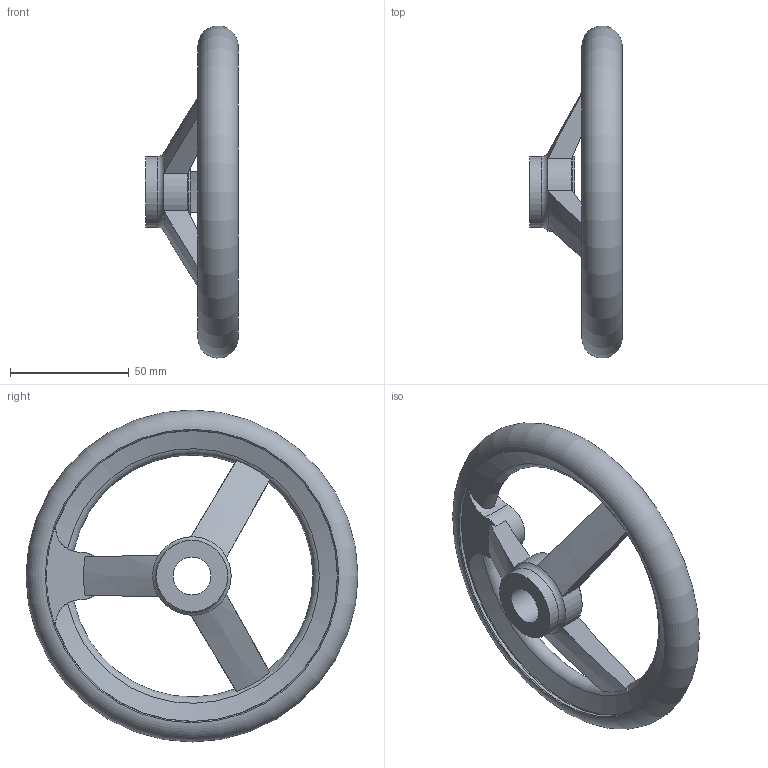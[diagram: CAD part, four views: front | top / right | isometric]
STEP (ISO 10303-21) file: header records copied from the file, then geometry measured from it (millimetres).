
FILE_DESCRIPTION( ( 'STEP AP203' ), '1' );
FILE_NAME( 'C:/Temp/Ganter_Step_05_03_2020/data/1_3/din_950/din_950_b/din_950_b_a/Handwheel DIN 950-AL-140-B16-A.stp', '2020-03-05T10:29:17', ( 'License CC BY-ND 4.0' ), ( 'CADENAS' ), ' ', 'PARTsolutions', ' ' );
FILE_SCHEMA( ( 'CONFIG_CONTROL_DESIGN' ) );
Length unit declared in the file: millimetre
Products named in the file (1): _Handwheel DIN 950-AL-140-B16-A
Bounding box: 39 x 139.96 x 139.96 mm (x, y, z)
Volume: 109807.2 mm3; surface area: 31364 mm2
Topology: 1 solids, 1 shells, 37 faces, 108 edges, 69 vertices
Faces by surface type: cylinder 11, plane 10, torus 10, cone 6
Full cylindrical faces by diameter (mm): 16 x1, 30 x2, 123 x2
Entity records: 1528 total; most frequent: CARTESIAN_POINT 602, ORIENTED_EDGE 182, DIRECTION 172, EDGE_CURVE 91, AXIS2_PLACEMENT_3D 80, VERTEX_POINT 66, EDGE_LOOP 54, FACE_OUTER_BOUND 49
